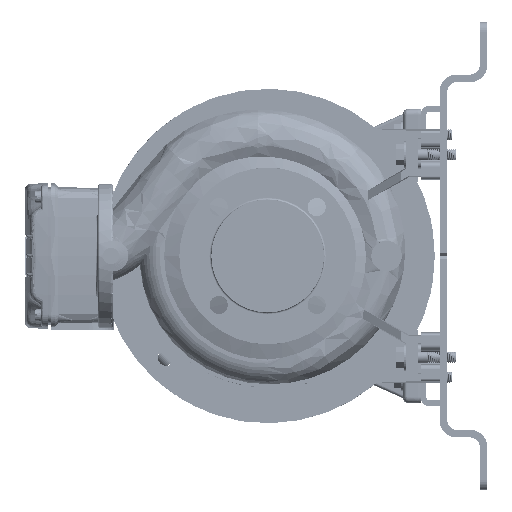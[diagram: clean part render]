
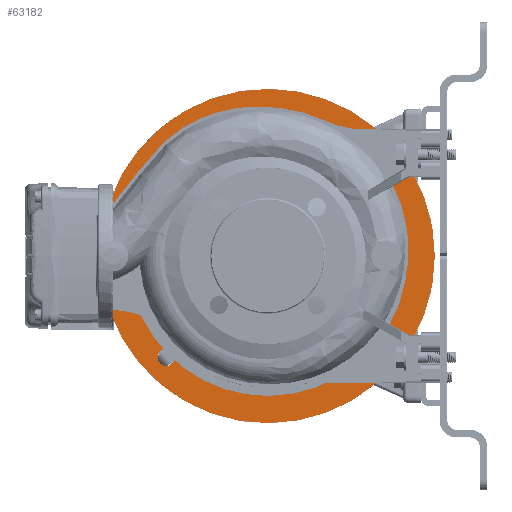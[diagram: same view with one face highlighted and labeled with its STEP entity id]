
A CAD part, left-side view. The second image highlights one B-rep face of the part: STEP entity #63182.
In plain terms, the highlighted planar face has unit normal (-1, 0, 0).
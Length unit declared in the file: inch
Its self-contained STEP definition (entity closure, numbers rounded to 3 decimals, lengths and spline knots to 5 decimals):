
#2774 = DIRECTION ( 'NONE',  ( 0., 0., 1. ) ) ;
#6246 = AXIS2_PLACEMENT_3D ( 'NONE', #25209, #132600, #95696 ) ;
#6254 = VERTEX_POINT ( 'NONE', #134602 ) ;
#8835 = DIRECTION ( 'NONE',  ( 1., 0., 0. ) ) ;
#8934 = CARTESIAN_POINT ( 'NONE',  ( 8.25941, 4.18012, 12.00856 ) ) ;
#9749 = DIRECTION ( 'NONE',  ( 0., 0., -1. ) ) ;
#12519 = CARTESIAN_POINT ( 'NONE',  ( 8.25941, 4.83336, 11.35337 ) ) ;
#12766 = FACE_BOUND ( 'NONE', #218916, .T. ) ;
#17990 = CARTESIAN_POINT ( 'NONE',  ( 8.25941, 4.98938, 15.17579 ) ) ;
#19660 = VERTEX_POINT ( 'NONE', #218290 ) ;
#20124 = AXIS2_PLACEMENT_3D ( 'NONE', #62927, #154144, #117197 ) ;
#25209 = CARTESIAN_POINT ( 'NONE',  ( 8.25941, 13.3386, 15.53012 ) ) ;
#25392 = AXIS2_PLACEMENT_3D ( 'NONE', #90567, #161043, #211925 ) ;
#25922 = CIRCLE ( 'NONE', #59106, 0.35433 ) ;
#26596 = CARTESIAN_POINT ( 'NONE',  ( 8.25941, 4.98938, 15.88445 ) ) ;
#27689 = CARTESIAN_POINT ( 'NONE',  ( 8.25941, 13.3386, 7.17662 ) ) ;
#28183 = VERTEX_POINT ( 'NONE', #171529 ) ;
#29672 = EDGE_LOOP ( 'NONE', ( #72463, #190126 ) ) ;
#30063 = CARTESIAN_POINT ( 'NONE',  ( 8.25941, 16.05375, 11.35337 ) ) ;
#33631 = AXIS2_PLACEMENT_3D ( 'NONE', #152038, #8835, #45751 ) ;
#42897 = ORIENTED_EDGE ( 'NONE', *, *, #162981, .F. ) ;
#43651 = EDGE_CURVE ( 'NONE', #177366, #28183, #82120, .T. ) ;
#45751 = DIRECTION ( 'NONE',  ( 0., 0., -1. ) ) ;
#46152 = EDGE_CURVE ( 'NONE', #181901, #120428, #108704, .T. ) ;
#46275 = DIRECTION ( 'NONE',  ( -1., 0., 0. ) ) ;
#46777 = CIRCLE ( 'NONE', #6246, 0.35433 ) ;
#51658 = EDGE_CURVE ( 'NONE', #120428, #181901, #25922, .T. ) ;
#53240 = EDGE_CURVE ( 'NONE', #75424, #94495, #155369, .T. ) ;
#53974 = AXIS2_PLACEMENT_3D ( 'NONE', #107937, #161086, #2774 ) ;
#57110 = VERTEX_POINT ( 'NONE', #26596 ) ;
#59106 = AXIS2_PLACEMENT_3D ( 'NONE', #77270, #196375, #182474 ) ;
#59223 = ORIENTED_EDGE ( 'NONE', *, *, #53240, .T. ) ;
#59493 = CARTESIAN_POINT ( 'NONE',  ( 8.25941, 9.16399, 11.35337 ) ) ;
#60037 = DIRECTION ( 'NONE',  ( 1., 0., 0. ) ) ;
#61245 = CIRCLE ( 'NONE', #53974, 0.35433 ) ;
#62397 = CARTESIAN_POINT ( 'NONE',  ( 8.25941, 9.16399, 16.38012 ) ) ;
#62402 = AXIS2_PLACEMENT_3D ( 'NONE', #99752, #222288, #63957 ) ;
#62927 = CARTESIAN_POINT ( 'NONE',  ( 8.25941, 4.98938, 7.17662 ) ) ;
#63182 = ADVANCED_FACE ( 'NONE', ( #190718, #137509, #134066, #169917, #204570, #12766 ), #188408, .T. ) ;
#63406 = CARTESIAN_POINT ( 'NONE',  ( 8.25941, 9.16399, 11.35337 ) ) ;
#63545 = CIRCLE ( 'NONE', #166854, 0.35433 ) ;
#63957 = DIRECTION ( 'NONE',  ( 0., 0., -1. ) ) ;
#64742 = DIRECTION ( 'NONE',  ( 0., 0., 1. ) ) ;
#68996 = VERTEX_POINT ( 'NONE', #98348 ) ;
#72463 = ORIENTED_EDGE ( 'NONE', *, *, #159347, .F. ) ;
#73787 = DIRECTION ( 'NONE',  ( 0., 0., -1. ) ) ;
#75424 = VERTEX_POINT ( 'NONE', #62397 ) ;
#77270 = CARTESIAN_POINT ( 'NONE',  ( 8.25941, 4.98938, 7.17662 ) ) ;
#79837 = DIRECTION ( 'NONE',  ( 1., 0., 0. ) ) ;
#81036 = ORIENTED_EDGE ( 'NONE', *, *, #131898, .F. ) ;
#81341 = CARTESIAN_POINT ( 'NONE',  ( 8.25941, 9.16399, 18.24313 ) ) ;
#82120 = CIRCLE ( 'NONE', #163326, 5.02675 ) ;
#90567 = CARTESIAN_POINT ( 'NONE',  ( 8.25941, 4.98938, 15.53012 ) ) ;
#90612 = VERTEX_POINT ( 'NONE', #177400 ) ;
#94495 = VERTEX_POINT ( 'NONE', #8934 ) ;
#95696 = DIRECTION ( 'NONE',  ( 0., 0., -1. ) ) ;
#98348 = CARTESIAN_POINT ( 'NONE',  ( 8.25941, 13.3386, 7.53095 ) ) ;
#99368 = ORIENTED_EDGE ( 'NONE', *, *, #192018, .T. ) ;
#99752 = CARTESIAN_POINT ( 'NONE',  ( 8.25941, 9.16399, 11.35337 ) ) ;
#100312 = DIRECTION ( 'NONE',  ( 0., 0., 1. ) ) ;
#107328 = CARTESIAN_POINT ( 'NONE',  ( 8.25941, 4.98938, 15.53012 ) ) ;
#107937 = CARTESIAN_POINT ( 'NONE',  ( 8.25941, 13.3386, 7.17662 ) ) ;
#108704 = CIRCLE ( 'NONE', #20124, 0.35433 ) ;
#110195 = CIRCLE ( 'NONE', #25392, 0.35433 ) ;
#110753 = DIRECTION ( 'NONE',  ( 1., 0., 0. ) ) ;
#112118 = CARTESIAN_POINT ( 'NONE',  ( 8.25941, 4.98938, 7.53095 ) ) ;
#115382 = CIRCLE ( 'NONE', #226117, 6.88976 ) ;
#117197 = DIRECTION ( 'NONE',  ( 0., 0., 1. ) ) ;
#119372 = CIRCLE ( 'NONE', #226461, 6.88976 ) ;
#120428 = VERTEX_POINT ( 'NONE', #133257 ) ;
#121710 = CIRCLE ( 'NONE', #169670, 0.35433 ) ;
#123808 = ORIENTED_EDGE ( 'NONE', *, *, #124533, .F. ) ;
#124062 = AXIS2_PLACEMENT_3D ( 'NONE', #27689, #188297, #190598 ) ;
#124533 = EDGE_CURVE ( 'NONE', #68996, #19660, #223697, .T. ) ;
#127884 = CIRCLE ( 'NONE', #223870, 0.9252 ) ;
#129969 = DIRECTION ( 'NONE',  ( 1., 0., 0. ) ) ;
#130103 = ORIENTED_EDGE ( 'NONE', *, *, #152125, .F. ) ;
#131898 = EDGE_CURVE ( 'NONE', #145529, #57110, #121710, .T. ) ;
#132600 = DIRECTION ( 'NONE',  ( 1., 0., 0. ) ) ;
#132646 = ORIENTED_EDGE ( 'NONE', *, *, #43651, .T. ) ;
#133257 = CARTESIAN_POINT ( 'NONE',  ( 8.25941, 4.98938, 6.82229 ) ) ;
#134066 = FACE_BOUND ( 'NONE', #160154, .T. ) ;
#134602 = CARTESIAN_POINT ( 'NONE',  ( 8.25941, 13.3386, 15.88445 ) ) ;
#137509 = FACE_BOUND ( 'NONE', #141479, .T. ) ;
#141479 = EDGE_LOOP ( 'NONE', ( #179512, #99368 ) ) ;
#145529 = VERTEX_POINT ( 'NONE', #17990 ) ;
#147153 = EDGE_CURVE ( 'NONE', #94495, #177366, #127884, .T. ) ;
#152038 = CARTESIAN_POINT ( 'NONE',  ( 8.25941, 9.16399, 11.35337 ) ) ;
#152125 = EDGE_CURVE ( 'NONE', #57110, #145529, #110195, .T. ) ;
#154144 = DIRECTION ( 'NONE',  ( 1., 0., 0. ) ) ;
#155369 = CIRCLE ( 'NONE', #33631, 5.02675 ) ;
#156049 = ORIENTED_EDGE ( 'NONE', *, *, #51658, .T. ) ;
#159095 = CARTESIAN_POINT ( 'NONE',  ( 8.25941, 4.18012, 10.69818 ) ) ;
#159347 = EDGE_CURVE ( 'NONE', #223907, #199025, #115382, .T. ) ;
#160154 = EDGE_LOOP ( 'NONE', ( #81036, #130103 ) ) ;
#161043 = DIRECTION ( 'NONE',  ( -1., 0., 0. ) ) ;
#161086 = DIRECTION ( 'NONE',  ( -1., 0., 0. ) ) ;
#162761 = DIRECTION ( 'NONE',  ( -1., 0., 0. ) ) ;
#162981 = EDGE_CURVE ( 'NONE', #19660, #68996, #61245, .T. ) ;
#163326 = AXIS2_PLACEMENT_3D ( 'NONE', #169909, #79837, #204561 ) ;
#166854 = AXIS2_PLACEMENT_3D ( 'NONE', #221281, #110753, #222420 ) ;
#169670 = AXIS2_PLACEMENT_3D ( 'NONE', #107328, #162761, #73787 ) ;
#169909 = CARTESIAN_POINT ( 'NONE',  ( 8.25941, 9.16399, 11.35337 ) ) ;
#169917 = FACE_BOUND ( 'NONE', #228305, .T. ) ;
#171529 = CARTESIAN_POINT ( 'NONE',  ( 8.25941, 9.16399, 6.32662 ) ) ;
#174705 = ORIENTED_EDGE ( 'NONE', *, *, #46152, .T. ) ;
#176658 = AXIS2_PLACEMENT_3D ( 'NONE', #30063, #46275, #64742 ) ;
#177366 = VERTEX_POINT ( 'NONE', #159095 ) ;
#177400 = CARTESIAN_POINT ( 'NONE',  ( 8.25941, 13.3386, 15.17579 ) ) ;
#179043 = EDGE_LOOP ( 'NONE', ( #174705, #156049 ) ) ;
#179512 = ORIENTED_EDGE ( 'NONE', *, *, #201118, .T. ) ;
#181901 = VERTEX_POINT ( 'NONE', #112118 ) ;
#182474 = DIRECTION ( 'NONE',  ( 0., 0., 1. ) ) ;
#188297 = DIRECTION ( 'NONE',  ( -1., 0., 0. ) ) ;
#188408 = PLANE ( 'NONE',  #176658 ) ;
#190126 = ORIENTED_EDGE ( 'NONE', *, *, #206554, .F. ) ;
#190256 = ORIENTED_EDGE ( 'NONE', *, *, #147153, .T. ) ;
#190598 = DIRECTION ( 'NONE',  ( 0., 0., 1. ) ) ;
#190718 = FACE_OUTER_BOUND ( 'NONE', #29672, .T. ) ;
#192018 = EDGE_CURVE ( 'NONE', #6254, #90612, #46777, .T. ) ;
#195141 = CARTESIAN_POINT ( 'NONE',  ( 8.25941, 9.16399, 4.46361 ) ) ;
#196375 = DIRECTION ( 'NONE',  ( 1., 0., 0. ) ) ;
#199025 = VERTEX_POINT ( 'NONE', #81341 ) ;
#201118 = EDGE_CURVE ( 'NONE', #90612, #6254, #63545, .T. ) ;
#204561 = DIRECTION ( 'NONE',  ( 0., 0., -1. ) ) ;
#204570 = FACE_BOUND ( 'NONE', #179043, .T. ) ;
#206554 = EDGE_CURVE ( 'NONE', #199025, #223907, #119372, .T. ) ;
#210051 = CIRCLE ( 'NONE', #62402, 5.02675 ) ;
#211925 = DIRECTION ( 'NONE',  ( 0., 0., -1. ) ) ;
#217219 = DIRECTION ( 'NONE',  ( 0., 0., -1. ) ) ;
#217804 = EDGE_CURVE ( 'NONE', #28183, #75424, #210051, .T. ) ;
#218290 = CARTESIAN_POINT ( 'NONE',  ( 8.25941, 13.3386, 6.82229 ) ) ;
#218916 = EDGE_LOOP ( 'NONE', ( #190256, #132646, #226977, #59223 ) ) ;
#220585 = DIRECTION ( 'NONE',  ( 1., 0., 0. ) ) ;
#221281 = CARTESIAN_POINT ( 'NONE',  ( 8.25941, 13.3386, 15.53012 ) ) ;
#222288 = DIRECTION ( 'NONE',  ( 1., 0., 0. ) ) ;
#222420 = DIRECTION ( 'NONE',  ( 0., 0., -1. ) ) ;
#223697 = CIRCLE ( 'NONE', #124062, 0.35433 ) ;
#223870 = AXIS2_PLACEMENT_3D ( 'NONE', #12519, #220585, #100312 ) ;
#223907 = VERTEX_POINT ( 'NONE', #195141 ) ;
#226117 = AXIS2_PLACEMENT_3D ( 'NONE', #63406, #60037, #217219 ) ;
#226461 = AXIS2_PLACEMENT_3D ( 'NONE', #59493, #129969, #9749 ) ;
#226977 = ORIENTED_EDGE ( 'NONE', *, *, #217804, .T. ) ;
#228305 = EDGE_LOOP ( 'NONE', ( #123808, #42897 ) ) ;
